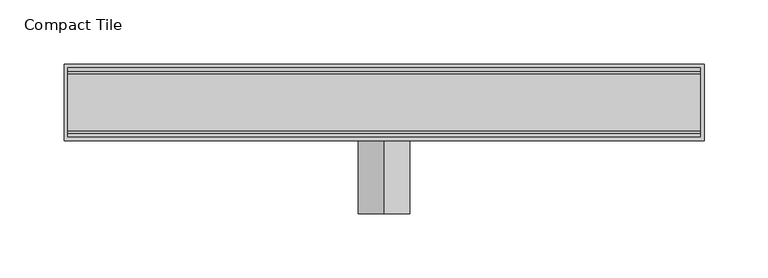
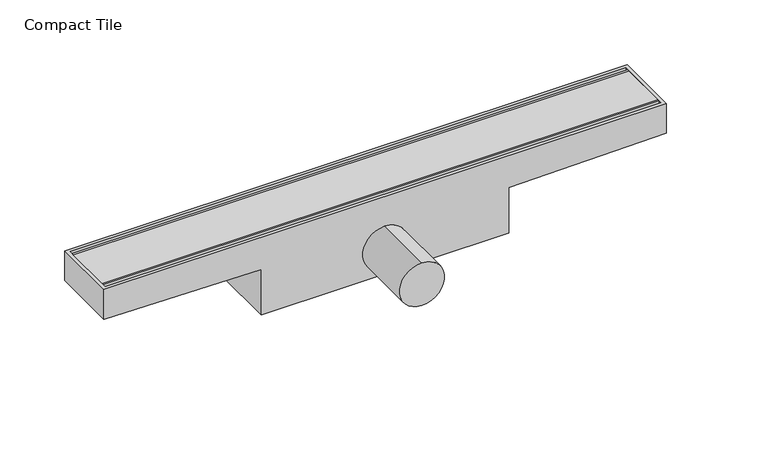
"""IFC4 building model written with IfcOpenShell, lengths in millimetres: sanitary terminal geometry, NLRS_PF_52_UN_Compact Tile_Easydrain : Compact Tile."""

from ifc_helpers import new_model, si_unit, frame, origin, place, context, project, spatial, polyline, circle_curve, outline, extrude, source, transform, mapped, element, save
from ifc_brep_helpers import plane_surface, cylinder_surface, advanced_brep


def compact_tile_8fcec66e(model_context):
    return source(origin(), model_context, "Body", "SolidModel", [
        extrude(outline(polyline([(247.0, 22.0), (247.0, -22.0), (-247.0, -22.0), (-247.0, 22.0), (247.0, 22.0)])), frame((0.0, 0.0, -12.0), z_axis=(0.0, 0.0, 1.0), x_axis=(1.0, 0.0, 0.0)), (0.0, 0.0, 1.0), 12.0),
        extrude(outline(polyline([(247.0, 24.0), (247.0, 22.0), (-247.0, 22.0), (-247.0, 24.0), (247.0, 24.0)])), frame((0.0, 0.0, -12.0), z_axis=(0.0, 0.0, 1.0), x_axis=(1.0, 0.0, 0.0)), (0.0, 0.0, 1.0), 12.0),
        extrude(outline(polyline([(247.0, -24.0), (-247.0, -24.0), (-247.0, -22.0), (247.0, -22.0), (247.0, -24.0)])), frame((0.0, 0.0, -12.0), z_axis=(0.0, 0.0, 1.0), x_axis=(1.0, 0.0, 0.0)), (0.0, 0.0, 1.0), 12.0),
        advanced_brep(
        [(-250.0, -30.0, -28.0), (-110.0, -30.0, -30.0), (-110.0, -30.0, -73.0), (110.0, -30.0, -73.0), (110.0, -30.0, -30.0), (250.0, -30.0, -28.0), (250.0, -30.0, 0.0), (-250.0, -30.0, 0.0), (0.0, -30.0, -28.0), (0.0, -30.0, -68.0), (-250.0, 30.0, -28.0), (-250.0, 30.0, 0.0), (250.0, 30.0, 0.0), (250.0, 30.0, -28.0), (110.0, 30.0, -30.0), (110.0, 30.0, -73.0), (-110.0, 30.0, -73.0), (-110.0, 30.0, -30.0), (-247.0, 27.0, 0.0), (247.0, 27.0, 0.0), (247.0, -27.0, 0.0), (-247.0, -27.0, 0.0), (0.0, -86.9792871, -28.0), (0.0, -86.9792871, -68.0), (247.0, 27.0, -12.0), (-247.0, 27.0, -12.0), (-247.0, -27.0, -12.0), (247.0, -27.0, -12.0)],
        [
            (0, 1),
            (1, 2),
            (2, 3),
            (3, 4),
            (4, 5),
            (5, 6),
            (6, 7),
            (7, 0),
            (8, 9, circle_curve(frame((0.0, -30.0, -48.0), z_axis=(0.0, 1.0, 0.0), x_axis=(0.0, 0.0, -1.0)), 20.0)),
            (9, 8, circle_curve(frame((0.0, -30.0, -48.0), z_axis=(0.0, 1.0, 0.0), x_axis=(0.0, 0.0, -1.0)), 20.0)),
            (10, 11),
            (11, 12),
            (12, 13),
            (13, 14),
            (14, 15),
            (15, 16),
            (16, 17),
            (17, 10),
            (0, 10),
            (17, 1),
            (5, 13),
            (12, 6),
            (11, 7),
            (18, 19),
            (19, 20),
            (20, 21),
            (21, 18),
            (16, 2),
            (15, 3),
            (14, 4),
            (22, 23, circle_curve(frame((0.0, -86.9792871, -48.0), z_axis=(0.0, -1.0, 0.0), x_axis=(0.0, 0.0, -1.0)), 20.0)),
            (23, 22, circle_curve(frame((0.0, -86.9792871, -48.0), z_axis=(0.0, -1.0, 0.0), x_axis=(0.0, 0.0, -1.0)), 20.0)),
            (23, 9),
            (8, 22),
            (24, 25),
            (25, 26),
            (26, 27),
            (27, 24),
            (24, 19),
            (18, 25),
            (21, 26),
            (20, 27),
        ],
        [
            plane_surface(frame((-250.0, -30.0, -28.0), z_axis=(0.0, -1.0, 0.0), x_axis=(0.99989797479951, 0.0, -0.014284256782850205))),
            plane_surface(frame((-250.0, 30.0, -28.0), z_axis=(0.0, 1.0, 0.0), x_axis=(-0.99989797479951, 0.0, 0.014284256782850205))),
            plane_surface(frame((-250.0, -30.0, -28.0), z_axis=(-0.014284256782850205, 0.0, -0.99989797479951), x_axis=(0.0, 1.0, 0.0))),
            plane_surface(frame((250.0, -30.0, -28.0), z_axis=(1.0, 0.0, 0.0), x_axis=(0.0, 1.0, 0.0))),
            plane_surface(frame((250.0, -30.0, 0.0), z_axis=(0.0, 0.0, 1.0), x_axis=(0.0, 1.0, 0.0))),
            plane_surface(frame((-250.0, -30.0, 0.0), z_axis=(-1.0, 0.0, 0.0), x_axis=(0.0, 1.0, 0.0))),
            plane_surface(frame((-110.0, -30.0, -30.0), z_axis=(-1.0, 0.0, 0.0), x_axis=(0.0, 1.0, 0.0))),
            plane_surface(frame((-110.0, -30.0, -73.0), z_axis=(0.0, 0.0, -1.0), x_axis=(0.0, 1.0, 0.0))),
            plane_surface(frame((110.0, -30.0, -73.0), z_axis=(1.0, 0.0, 0.0), x_axis=(0.0, 1.0, 0.0))),
            plane_surface(frame((110.0, -30.0, -30.0), z_axis=(0.014284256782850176, 0.0, -0.99989797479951), x_axis=(0.0, 1.0, 0.0))),
            plane_surface(frame((0.0, -86.9792871, -48.0), z_axis=(0.0, -1.0, 0.0), x_axis=(1.0, 0.0, 0.0))),
            cylinder_surface(frame((0.0, 0.0, -48.0), z_axis=(0.0, 1.0, 0.0), x_axis=(0.0, 0.0, -1.0)), 20.0),
            plane_surface(frame((-247.0, 27.0, -12.0), z_axis=(0.0, 0.0, 1.0), x_axis=(1.0, 0.0, 0.0))),
            plane_surface(frame((247.0, 27.0, 10.0), z_axis=(0.0, -1.0, 0.0), x_axis=(0.0, 0.0, -1.0))),
            plane_surface(frame((-247.0, 27.0, 10.0), z_axis=(1.0, 0.0, 0.0), x_axis=(0.0, 0.0, -1.0))),
            plane_surface(frame((-247.0, -27.0, 10.0), z_axis=(0.0, 1.0, 0.0), x_axis=(0.0, 0.0, -1.0))),
            plane_surface(frame((247.0, -27.0, 10.0), z_axis=(-1.0, 0.0, 0.0), x_axis=(0.0, 0.0, -1.0))),
        ],
        [
            (0, [[1, 2, 3, 4, 5, 6, 7, 8], [9, 10]]),
            (1, [[11, 12, 13, 14, 15, 16, 17, 18]]),
            (2, [[-1, 19, -18, 20]]),
            (3, [[-6, 21, -13, 22]]),
            (4, [[-7, -22, -12, 23], [24, 25, 26, 27]]),
            (5, [[-8, -23, -11, -19]]),
            (6, [[-2, -20, -17, 28]]),
            (7, [[-3, -28, -16, 29]]),
            (8, [[-4, -29, -15, 30]]),
            (9, [[-5, -30, -14, -21]]),
            (10, [[31, 32]]),
            (11, [[-32, 33, -9, 34]]),
            (11, [[-31, -34, -10, -33]]),
            (12, [[35, 36, 37, 38]]),
            (13, [[-35, 39, -24, 40]]),
            (14, [[-36, -40, -27, 41]]),
            (15, [[-37, -41, -26, 42]]),
            (16, [[-38, -42, -25, -39]]),
        ],
    ),
    ])


if __name__ == "__main__":
    model = new_model("IFC4")
    model_context = context("Model", 3, world=origin())
    ifc_project = project(units=[si_unit("LENGTHUNIT", "METRE", prefix="MILLI")], contexts=[model_context])
    site = spatial("IfcSite", under=ifc_project)
    building = spatial("IfcBuilding", under=site)
    placement = place(None, origin())
    compact_tile_shape = compact_tile_8fcec66e(model_context)
    element("IfcSanitaryTerminal", 1, ObjectType="NLRS_PF_52_UN_Compact Tile_Easydrain : Compact Tile", at=placement, inside=building, context=model_context, shape_type="MappedRepresentation", body=[
        mapped(compact_tile_shape, transform((0.0, 0.0, 0.0), x_axis=(1.0, 0.0, 0.0), y_axis=(0.0, 1.0, 0.0), z_axis=(0.0, 0.0, 1.0))),
    ])
    save(model, "model.ifc")
